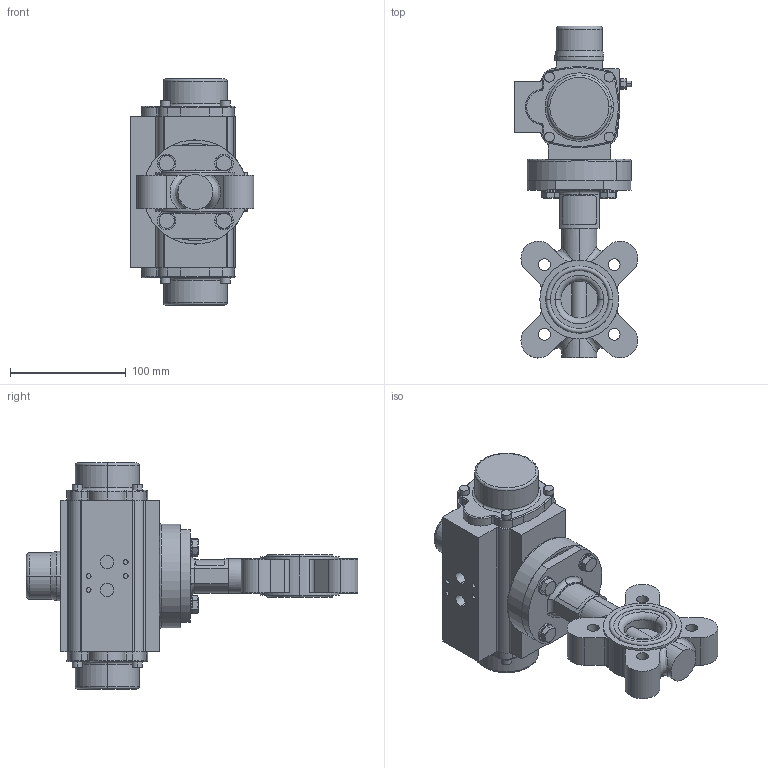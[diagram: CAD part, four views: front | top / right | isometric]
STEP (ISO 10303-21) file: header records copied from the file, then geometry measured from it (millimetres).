
FILE_DESCRIPTION (( 'STEP AP214' ), '1' );
FILE_NAME ('67350.step', '2020-10-23T12:38:27', ( '' ), ( '' ), 'SwSTEP 2.0', 'SolidWorks 2019', '' );
FILE_SCHEMA (( 'AUTOMOTIVE_DESIGN' ));
Length unit declared in the file: millimetre
Products named in the file (10): 67350; 67335_15x15x2 - L=18; U-Scheibe DIN 125 A_M8; Zyl-Schr In-6kt DIN 912_M6x16; SR0040-V14_02; Flanschadapter F07-F05; 6kt-Schr DIN 933_M8x25; 6kt-Mu DIN 934_M8; TL20-0025_M01; Achtkantreduktion 14-11 mm
Assembly tree (21 placements, depth 2):
  67350
    TL20-0025_M01
    SR0040-V14_02
    U-Scheibe DIN 125 A_M8  x4
    6kt-Schr DIN 933_M8x25  x4
    Achtkantreduktion 14-11 mm
    Flanschadapter F07-F05
    67335_15x15x2 - L=18
    Zyl-Schr In-6kt DIN 912_M6x16  x4
    6kt-Mu DIN 934_M8  x4
Bounding box: 106.3 x 286.33 x 195 mm (x, y, z)
Volume: 1422095.9 mm3; surface area: 180496.7 mm2
Topology: 22 solids, 22 shells, 951 faces, 2322 edges, 1463 vertices
Faces by surface type: plane 440, cylinder 331, cone 105, torus 59, bspline 16
Entity records: 25738 total; most frequent: CARTESIAN_POINT 5542, DIRECTION 3934, ORIENTED_EDGE 3608, EDGE_CURVE 1804, AXIS2_PLACEMENT_3D 1522, VERTEX_POINT 1160, VECTOR 890, LINE 890
